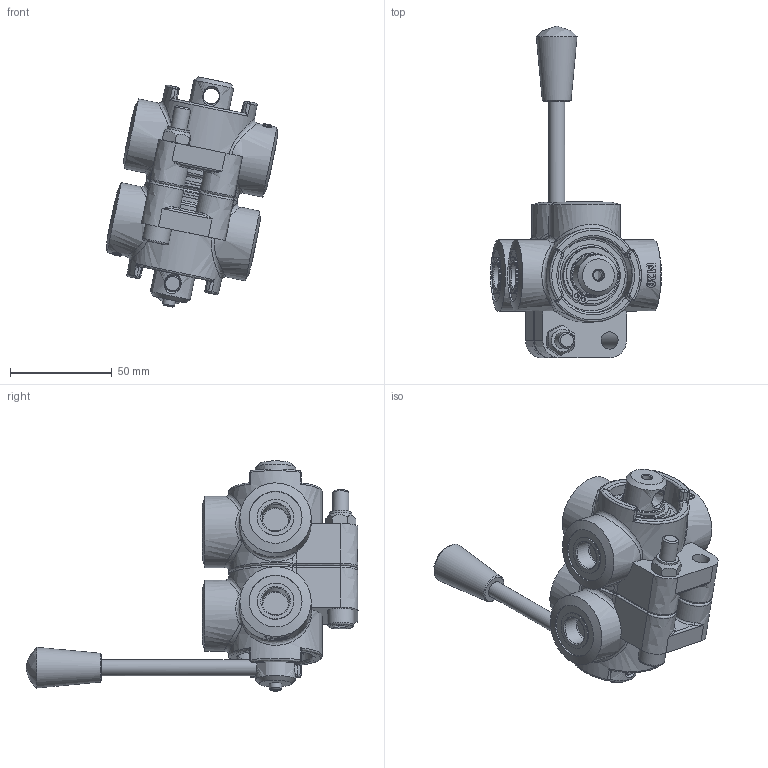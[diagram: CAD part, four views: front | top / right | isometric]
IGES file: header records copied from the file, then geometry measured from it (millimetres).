
Global section: file name: No Iges File Name specified; native system: Autodesk Inventor 2013; preprocessor: AutoDesk Inventor Iges Exporter R2013; author: christian.scardovi; date: 20240826.123031; units: millimetre
Bounding box: 83.93 x 163 x 113.02 mm (x, y, z)
Volume: 244590.3 mm3; surface area: 50629.8 mm2
Topology: 1 solids, 1 shells, 619 faces, 1513 edges, 893 vertices
Faces by surface type: bspline 619
